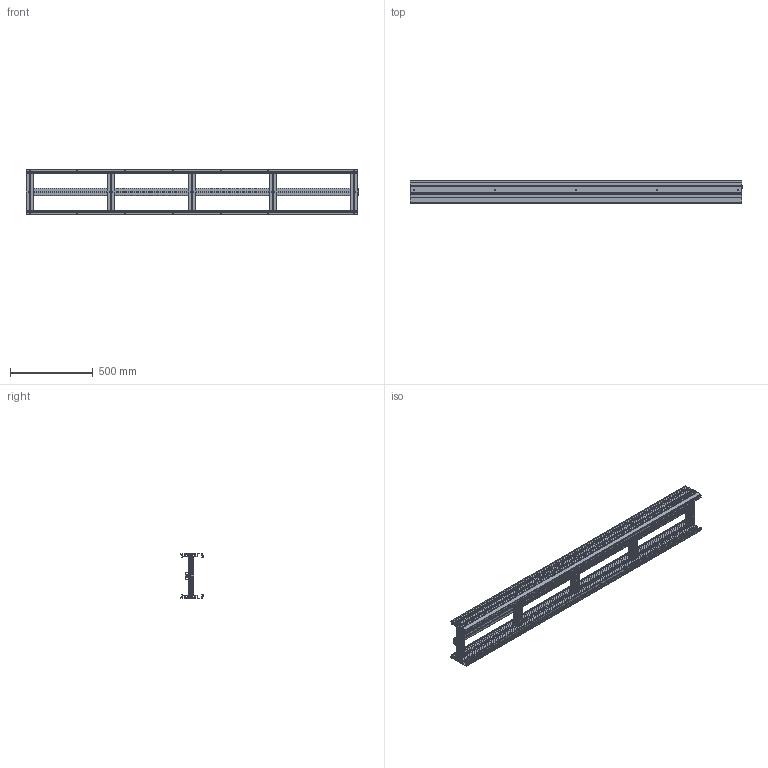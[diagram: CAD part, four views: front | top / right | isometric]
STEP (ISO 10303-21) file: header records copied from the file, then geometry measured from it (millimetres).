
FILE_DESCRIPTION (( 'STEP AP203' ), '1' );
FILE_NAME ('2000.1000.003.STEP', '2015-04-15T14:31:00', ( '' ), ( '' ), 'SwSTEP 2.0', 'SolidWorks 2012', '' );
FILE_SCHEMA (( 'CONFIG_CONTROL_DESIGN' ));
Length unit declared in the file: millimetre
Products named in the file (1): 2000.1000.003
Bounding box: 2000 x 134.24 x 270 mm (x, y, z)
Volume: 5159944.7 mm3; surface area: 3875978.4 mm2
Topology: 14 solids, 14 shells, 951 faces, 2784 edges, 1830 vertices
Faces by surface type: plane 553, cylinder 372, cone 26
Entity records: 33719 total; most frequent: CARTESIAN_POINT 7724, ORIENTED_EDGE 5568, DIRECTION 5286, EDGE_CURVE 2784, VECTOR 1910, LINE 1910, VERTEX_POINT 1830, AXIS2_PLACEMENT_3D 1688
